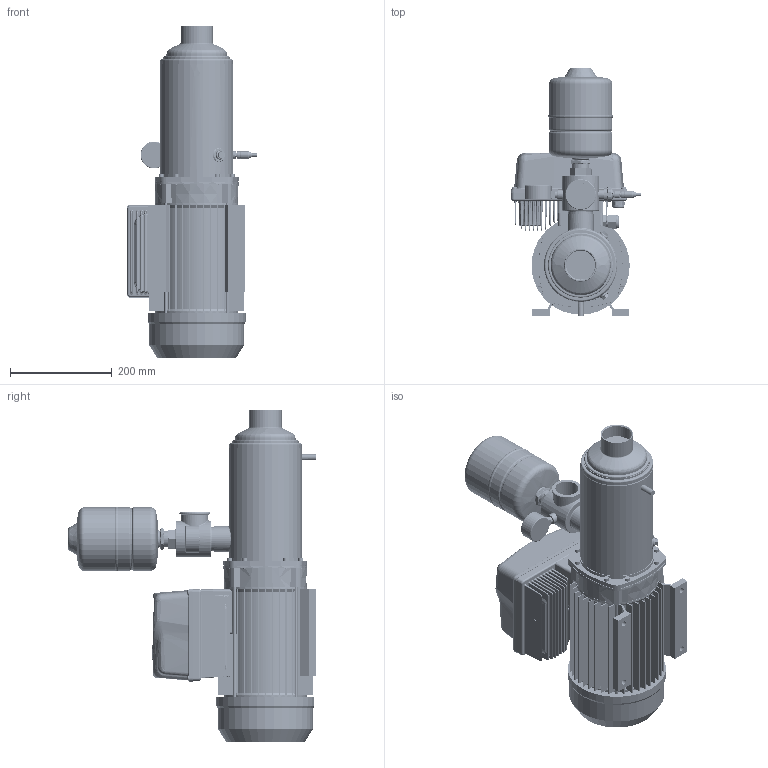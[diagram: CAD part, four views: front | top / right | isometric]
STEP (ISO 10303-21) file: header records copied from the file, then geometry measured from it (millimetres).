
FILE_DESCRIPTION((''),'2;1');
FILE_NAME('1GPE_MATRIX_18-6T_4_ESPT_ASM','2024-12-02T15:20:50',('Utente'),('"Ebara Pumps Europe S.p.A"'),'CREO PARAMETRIC BY PTC INC, 2022124','CREO PARAMETRIC BY PTC INC, 2022124','');
FILE_SCHEMA(('AUTOMOTIVE_DESIGN { 1 0 10303 214 1 1 1 1 }'));
Length unit declared in the file: millimetre
Products named in the file (14): EP_MATRIX_18-6T_4_IE3; EP_MATRIX_18-6T_4_ASM; ADATTATORE_E-SPD_MEC80-90-100; E-SPD_ADATTATORE_MEC80-90-100_ASM; BACK_E-SPD_PLUS_2200-4000; COVER_E-SPD_PLUS_2200-4000; COM_E-SPDT_MEC80-90-100_ORIZ_ASM; RACC_5_VIE_NR_1_1-2_A304; TRASD_ASHCROFT_M12_GEN; CABLE_M12_FEMALE; TRASD_ASHCROFT_10B_MP_362331051_ASM; MAN_RAD_D50_10BAR_361600160; VASO_ESPANSIONE_2L_GWS; 1GPE_MATRIX_18-6T_4_ESPT_ASM
Assembly tree (13 placements, depth 3):
  1GPE_MATRIX_18-6T_4_ESPT_ASM
    EP_MATRIX_18-6T_4_ASM
      EP_MATRIX_18-6T_4_IE3
    E-SPD_ADATTATORE_MEC80-90-100_ASM
      ADATTATORE_E-SPD_MEC80-90-100
    COM_E-SPDT_MEC80-90-100_ORIZ_ASM
      BACK_E-SPD_PLUS_2200-4000
      COVER_E-SPD_PLUS_2200-4000
    RACC_5_VIE_NR_1_1-2_A304
    TRASD_ASHCROFT_10B_MP_362331051_ASM
      TRASD_ASHCROFT_M12_GEN
      CABLE_M12_FEMALE
    MAN_RAD_D50_10BAR_361600160
    VASO_ESPANSIONE_2L_GWS
Bounding box: 256.84 x 488.41 x 652.3 mm (x, y, z)
Volume: 7127634.4 mm3; surface area: 1695870.3 mm2
Topology: 91 solids, 511 shells, 11957 faces, 30366 edges, 18016 vertices
Faces by surface type: plane 5972, cylinder 2623, sphere 1047, bspline 948, cone 480, torus 452, extrusion 435
Entity records: 486578 total; most frequent: CARTESIAN_POINT 173188, ORIENTED_EDGE 55897, DIRECTION 53223, EDGE_CURVE 28889, VERTEX_POINT 17896, VECTOR 17773, AXIS2_PLACEMENT_3D 17706, LINE 17338
